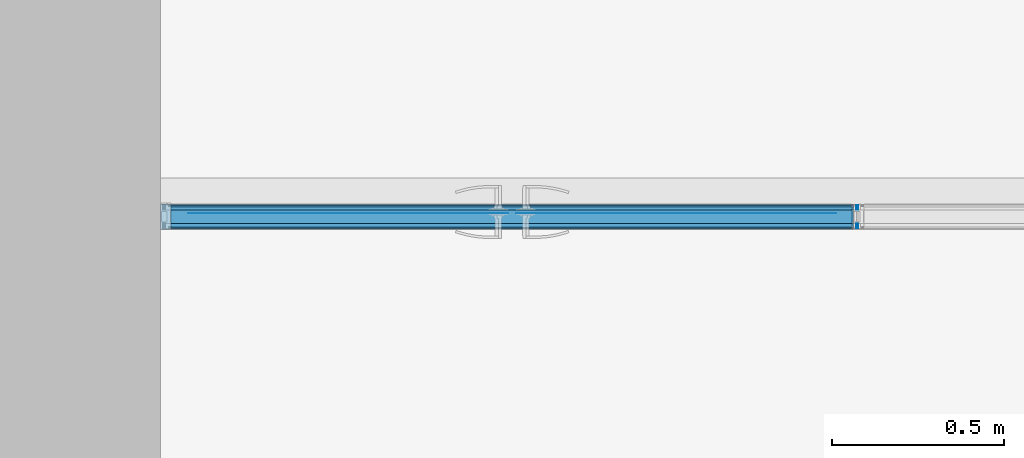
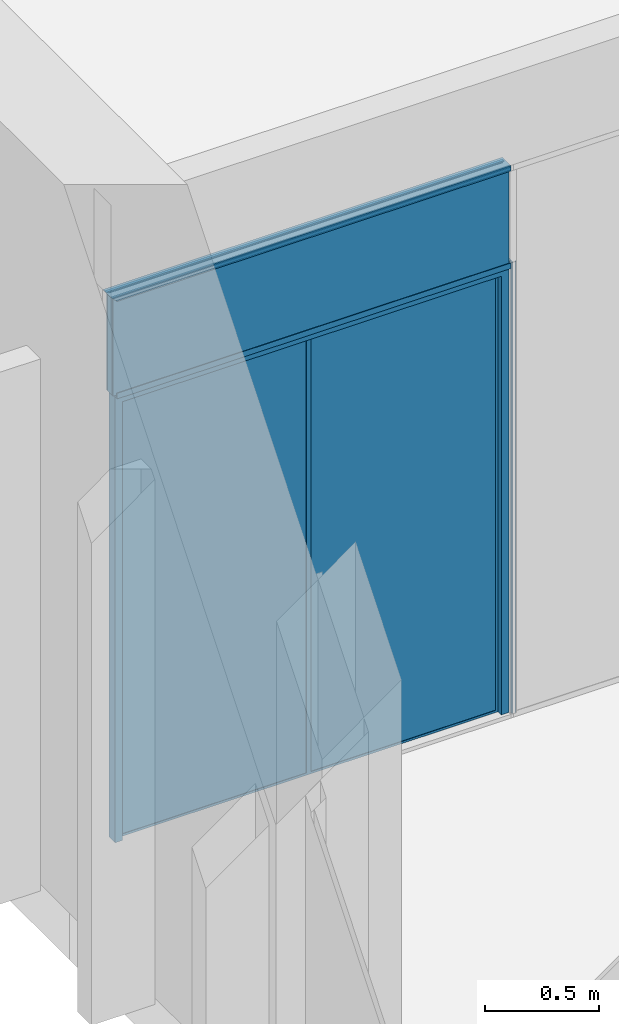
# One storey, part 59 of 89: 9 building element parts, 6 elements without a shape of their own.
"""IFC2X3 building model written with IfcOpenShell, lengths in millimetres."""

import ifcopenshell
import ifcopenshell.guid

model = None  # the IFC model being written
_history = None  # IfcOwnerHistory: only IFC2X3 demands one
_inside = {}  # id of a spatial element -> (the spatial element, [elements in it])
_under = {}  # id of a project, library or spatial element -> (it, [spatial elements below it])
_declared = {}  # id of a project -> (the project, [libraries it declares])
_typed = {}  # id of a type object -> (the type object, [elements of that type])
_made_of = {}  # id of a material, layer set ... -> (it, [elements and type objects made of it])


def new_model(schema):
    """Start an empty IFC model of exactly this schema.

    Asked for "IFC4X3", IfcOpenShell would pick the latest addendum, in which some entities
    have other attributes; the version numbers below select the first issue.
    IFC2X3 requires an IfcOwnerHistory on every rooted entity: one is made here for all.
    """
    global model, _history
    if schema == "IFC4X3":
        model = ifcopenshell.file(schema_version=(4, 3, 0, 0))
    else:
        model = ifcopenshell.file(schema=schema)
    _inside.clear()
    _under.clear()
    _declared.clear()
    _typed.clear()
    _made_of.clear()
    _history = None
    if model.schema == "IFC2X3":
        org = make("IfcOrganization", Name="unknown")
        user = make(
            "IfcPersonAndOrganization",
            ThePerson=make("IfcPerson", FamilyName="unknown"),
            TheOrganization=org,
        )
        app = make(
            "IfcApplication",
            ApplicationDeveloper=org,
            Version="unknown",
            ApplicationFullName="unknown",
            ApplicationIdentifier="unknown",
        )
        _history = make(
            "IfcOwnerHistory",
            OwningUser=user,
            OwningApplication=app,
            ChangeAction="ADDED",
            CreationDate=0,
        )
    return model


def make(cls, **values):
    """One entity of the class cls with the attributes given. An attribute that is None is left unset."""
    return model.create_entity(
        cls, **{name: value for name, value in values.items() if value is not None}
    )


def entity(cls, *values):
    """Any entity or typed value of the class cls, its attributes in the order of the schema. None: left unset."""
    e = model.create_entity(cls)
    for i, value in enumerate(values):
        if value is not None:
            e[i] = value
    return e


def rooted(cls, **values):
    """An entity with a GlobalId (a new one), such as an element, a storey or a relation."""
    return make(cls, GlobalId=ifcopenshell.guid.new(), OwnerHistory=_history, **values)


def si_unit(unit_type, name, prefix=None):
    """IfcSIUnit, for example si_unit("LENGTHUNIT", "METRE", prefix="MILLI")."""
    return make("IfcSIUnit", UnitType=unit_type, Prefix=prefix, Name=name)


def converted_unit(unit_type, name, factor, base, dimensions=None, offset=None):
    """IfcConversionBasedUnit, such as the inch: factor (a typed value) times the base unit."""
    return make(
        "IfcConversionBasedUnit"
        if offset is None
        else "IfcConversionBasedUnitWithOffset",
        ConversionOffset=offset,
        Dimensions=None
        if dimensions is None
        else entity("IfcDimensionalExponents", *dimensions),
        UnitType=unit_type,
        Name=name,
        ConversionFactor=make(
            "IfcMeasureWithUnit", ValueComponent=factor, UnitComponent=base
        ),
    )


def derived_unit(unit_type, elements):
    """IfcDerivedUnit: a product of units, each with its exponent."""
    return make(
        "IfcDerivedUnit",
        Elements=[
            make("IfcDerivedUnitElement", Unit=unit, Exponent=power)
            for unit, power in elements
        ],
        UnitType=unit_type,
    )


def money_unit(currency):
    """IfcMonetaryUnit."""
    return make("IfcMonetaryUnit", Currency=currency)


def assignment(units):
    """IfcUnitAssignment: the units of a project."""
    return None if units is None else make("IfcUnitAssignment", Units=units)


def point(xyz):
    """IfcCartesianPoint."""
    return None if xyz is None else make("IfcCartesianPoint", Coordinates=xyz)


def direction(xyz):
    """IfcDirection."""
    return None if xyz is None else make("IfcDirection", DirectionRatios=xyz)


def frame(location, z_axis=None, x_axis=None):
    """IfcAxis2Placement3D, a coordinate frame: its origin and axes. An axis left out is left unset."""
    return make(
        "IfcAxis2Placement3D",
        Location=point(location),
        Axis=direction(z_axis),
        RefDirection=direction(x_axis),
    )


def origin_with_axes():
    """The frame at (0, 0, 0) with the z axis (0, 0, 1) and the x axis (1, 0, 0) written out."""
    return frame((0.0, 0.0, 0.0), z_axis=(0.0, 0.0, 1.0), x_axis=(1.0, 0.0, 0.0))


def place(relative_to, where):
    """IfcLocalPlacement: puts the frame where relative to a parent placement (None: the world)."""
    return make(
        "IfcLocalPlacement", PlacementRelTo=relative_to, RelativePlacement=where
    )


def context(
    kind, dimensions, precision=None, world=None, true_north=None, identifier=None
):
    """IfcGeometricRepresentationContext, for example the 3D "Model" context."""
    return make(
        "IfcGeometricRepresentationContext",
        ContextIdentifier=identifier,
        ContextType=kind,
        CoordinateSpaceDimension=dimensions,
        Precision=precision,
        WorldCoordinateSystem=world,
        TrueNorth=true_north,
    )


def subcontext(parent, identifier, kind, view, scale=None):
    """IfcGeometricRepresentationSubContext, for example "Body" below "Model"."""
    return make(
        "IfcGeometricRepresentationSubContext",
        ContextIdentifier=identifier,
        ContextType=kind,
        ParentContext=parent,
        TargetScale=scale,
        TargetView=view,
    )


def project(units=None, contexts=None):
    """IfcProject with its units and contexts."""
    return rooted(
        "IfcProject",
        Name="project",
        RepresentationContexts=contexts,
        UnitsInContext=assignment(units),
    )


def spatial(cls, under=None, at=None, **own):
    """A site, building, storey or space (cls), placed at a placement, below another one or the project."""
    s = rooted(cls, ObjectPlacement=at, **own)
    if under is not None:
        _under.setdefault(under.id(), (under, []))[1].append(s)
    return s


def faces_of(points, faces, orient=None, outer=None):
    """IfcFace entities. A face is a list of loops; a loop is a list of indices into points, from 0.

    orient and outer hold one flag for each loop. By default every Orientation is true, the
    first loop of a face is its IfcFaceOuterBound and the others are IfcFaceBound.
    """
    made = []
    for i, loops in enumerate(faces):
        bounds = []
        for j, loop in enumerate(loops):
            is_outer = j == 0 if outer is None else outer[i][j]
            bounds.append(
                make(
                    "IfcFaceOuterBound" if is_outer else "IfcFaceBound",
                    Bound=make("IfcPolyLoop", Polygon=[points[k] for k in loop]),
                    Orientation=True if orient is None else orient[i][j],
                )
            )
        made.append(make("IfcFace", Bounds=bounds))
    return made


def open_shell(faces, orient=None, outer=None):
    """The faces of one IfcOpenShell. surface_model builds it on its shared points."""
    return ("IfcOpenShell", faces, orient, outer)


def faceted_brep(points, faces, orient=None, outer=None, voids=None):
    """IfcFacetedBrep: a solid bounded by flat faces; with voids (closed shells), ...WithVoids."""
    shared = [point(p) for p in points]
    hull = make("IfcClosedShell", CfsFaces=faces_of(shared, faces, orient, outer))
    if voids is None:
        return make("IfcFacetedBrep", Outer=hull)
    return make(
        "IfcFacetedBrepWithVoids",
        Outer=hull,
        Voids=[
            make(cls, CfsFaces=faces_of(shared, fs, o, b)) for cls, fs, o, b in voids
        ],
    )


def surface_model(cls, points, shells):
    """IfcFaceBasedSurfaceModel or IfcShellBasedSurfaceModel (cls): surfaces that need not close."""
    shared = [point(p) for p in points]
    made = [make(c, CfsFaces=faces_of(shared, fs, o, b)) for c, fs, o, b in shells]
    if cls == "IfcFaceBasedSurfaceModel":
        return make(cls, FbsmFaces=made)
    return make(cls, SbsmBoundary=made)


def shape(context_of_items, identifier, shape_type, items):
    """IfcShapeRepresentation: the items that make up one representation, for example the "Body"."""
    return make(
        "IfcShapeRepresentation",
        ContextOfItems=context_of_items,
        RepresentationIdentifier=identifier,
        RepresentationType=shape_type,
        Items=items,
    )


def material(Name=None, Category=None):
    """IfcMaterial."""
    return make("IfcMaterial", Name=Name, Category=Category)


def made_of(thing, what):
    """Note that an element or type object is made of a material, layer set ...; save() writes the relation."""
    if what is not None:
        _made_of.setdefault(what.id(), (what, []))[1].append(thing)
    return thing


def type_object(cls, material=None, **own):
    """A type object (cls), such as IfcWallType, which elements share."""
    return made_of(rooted(cls, **own), material)


def element(
    cls,
    number,
    at=None,
    inside=None,
    cuts=None,
    type_object=None,
    material=None,
    context=None,
    identifier="Body",
    shape_type=None,
    held_by="IfcProductDefinitionShape",
    body=None,
    shapes=None,
    **own,
):
    """One element of the class cls, such as IfcWall. Its Tag is "e" and its number.

    at: its placement. inside: the storey or other place that contains it. cuts: it is an
    opening in that element (IfcRelVoidsElement). A single representation is given by context,
    identifier, shape_type and body (its items); several are given by shapes. held_by: the class
    of the entity that holds the representations. save() writes the other relations.
    """
    e = rooted(cls, Tag="e%d" % number, ObjectPlacement=at, **own)
    if body is not None:
        shapes = [shape(context, identifier, shape_type, body)]
    if shapes is not None:
        e.Representation = make(held_by, Representations=shapes)
    if inside is not None:
        _inside.setdefault(inside.id(), (inside, []))[1].append(e)
    if cuts is not None:
        rooted(
            "IfcRelVoidsElement", RelatingBuildingElement=cuts, RelatedOpeningElement=e
        )
    if type_object is not None:
        _typed.setdefault(type_object.id(), (type_object, []))[1].append(e)
    return made_of(e, material)


def aggregate(whole, parts):
    """IfcRelAggregates: a whole, such as a stair, and the parts it consists of."""
    return rooted("IfcRelAggregates", RelatingObject=whole, RelatedObjects=parts)


def save(model, path):
    """Write the relations noted so far, then the file.

    IfcRelAggregates (storeys below a building ...), IfcRelContainedInSpatialStructure (elements
    in a storey), IfcRelDefinesByType, IfcRelAssociatesMaterial and IfcRelDeclares: one each for
    every whole, place, type object, material and project.
    """
    for whole, parts in _under.values():
        aggregate(whole, parts)
    for where, things in _inside.values():
        rooted(
            "IfcRelContainedInSpatialStructure",
            RelatedElements=things,
            RelatingStructure=where,
        )
    for kind, things in _typed.values():
        rooted("IfcRelDefinesByType", RelatedObjects=things, RelatingType=kind)
    for what, things in _made_of.values():
        rooted("IfcRelAssociatesMaterial", RelatedObjects=things, RelatingMaterial=what)
    for by, libraries in _declared.values():
        rooted("IfcRelDeclares", RelatingContext=by, RelatedDefinitions=libraries)
    model.write(path)


model = new_model("IFC2X3")

# Units and contexts
model_context = context("Model", 3, precision=0.01, world=origin_with_axes(), true_north=direction((0.0, 1.0)))
body_context = subcontext(model_context, "Body", "Model", "MODEL_VIEW")
ifc_project = project(units=[si_unit("LENGTHUNIT", "METRE", prefix="MILLI"), si_unit("AREAUNIT", "SQUARE_METRE"), si_unit("VOLUMEUNIT", "CUBIC_METRE"), converted_unit("PLANEANGLEUNIT", "DEGREE", entity("IfcPlaneAngleMeasure", 0.0174532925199), si_unit("PLANEANGLEUNIT", "RADIAN"), dimensions=[0, 0, 0, 0, 0, 0, 0]), si_unit("SOLIDANGLEUNIT", "STERADIAN"), money_unit("EUR"), converted_unit("TIMEUNIT", "Year", entity("IfcTimeMeasure", 31556926.0), si_unit("TIMEUNIT", "SECOND"), dimensions=[0, 0, 1, 0, 0, 0, 0]), si_unit("MASSUNIT", "GRAM", prefix="KILO"), si_unit("THERMODYNAMICTEMPERATUREUNIT", "DEGREE_CELSIUS"), si_unit("LUMINOUSINTENSITYUNIT", "LUMEN"), si_unit("ENERGYUNIT", "JOULE", prefix="MEGA"), derived_unit("THERMALCONDUCTANCEUNIT", [(si_unit("POWERUNIT", "WATT"), 1), (si_unit("LENGTHUNIT", "METRE"), -1), (si_unit("THERMODYNAMICTEMPERATUREUNIT", "KELVIN"), -1)]), derived_unit("SPECIFICHEATCAPACITYUNIT", [(si_unit("ENERGYUNIT", "JOULE"), 1), (si_unit("MASSUNIT", "GRAM", prefix="KILO"), -1), (si_unit("THERMODYNAMICTEMPERATUREUNIT", "KELVIN"), -1)]), derived_unit("MASSDENSITYUNIT", [(si_unit("MASSUNIT", "GRAM", prefix="KILO"), 1), (si_unit("VOLUMEUNIT", "CUBIC_METRE"), -1)])], contexts=[model_context])

# Site, building, storey
site_placement = place(None, origin_with_axes())
site = spatial("IfcSite", under=ifc_project, at=site_placement, Name="Puškini 31, Narva", CompositionType="ELEMENT")
building_placement = place(site_placement, origin_with_axes())
building = spatial("IfcBuilding", under=site, at=building_placement, Name="Narva Riigigümnaasium", CompositionType="ELEMENT")
storey_placement = place(building_placement, frame((0.0, 0.0, -3300.0), z_axis=(0.0, 0.0, 1.0), x_axis=(1.0, 0.0, 0.0)))
storey = spatial("IfcBuildingStorey", under=building, at=storey_placement, Name="1.korrus -3.3", CompositionType="ELEMENT", Elevation=-3300.0)

# Curtain wall, door, building element parts, plate, members
curtain_wall_type = type_object("IfcCurtainWallType", Name="Curtain Wall Type", PredefinedType="NOTDEFINED")
curtain_wall_placement = place(storey_placement, frame((40014.000008, 243997.000057, -9.155864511e-06), z_axis=(0.0, 0.0, 1.0), x_axis=(1.0, 0.0, 0.0)))
curtain_wall = element("IfcCurtainWall", 1, at=curtain_wall_placement, inside=storey, type_object=curtain_wall_type, Name="G-SKLF-09")
door_style = type_object("IfcDoorStyle", Name="1973 x 2365 x 20", ConstructionType="NOTDEFINED", OperationType="NOTDEFINED", ParameterTakesPrecedence=False, Sizeable=False)
door_placement = place(curtain_wall_placement, frame((-1595.00000779, 0.0, 1200.00000358), z_axis=(0.0, 0.0, 1.0), x_axis=(-1.0, 0.0, 0.0)))
door = element("IfcDoor", 2, at=door_placement, type_object=door_style, Name="G-SKLF-09-U1", ObjectType="DOOR")
ifc_material_1 = material(Name="Alumiiniumprofiil")
building_element_part_1_placement = place(door_placement, origin_with_axes())
building_element_part_1 = element("IfcBuildingElementPart", 3, at=building_element_part_1_placement, material=ifc_material_1, Name="Alumiiniumprofiil", context=body_context, shape_type="Brep", body=[
    faceted_brep([(-1009.00000602, -20.0, -1180.00000352), (-1009.00000602, -34.0, -1180.00000352), (-1009.00000602, -34.0, 1200.00000358), (-1009.00000602, -20.0, 1200.00000358), (-963.000006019, -20.0, -1180.00000352), (-963.000006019, -34.0, -1180.00000352), (-963.000006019, -34.0, 1154.00000358), (-963.000006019, -20.0, 1154.00000358)], [[[0, 1, 2, 3]], [[4, 5, 1, 0]], [[1, 5, 6, 2]], [[3, 2, 6, 7]], [[0, 3, 7, 4]], [[7, 6, 5, 4]]]),
    faceted_brep([(978.999999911, -20.0, 1200.00000358), (978.999999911, -34.0, 1200.00000358), (932.999999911, -34.0, 1154.00000358), (932.999999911, -20.0, 1154.00000358), (-1009.00000602, -20.0, 1200.00000358), (-1009.00000602, -34.0, 1200.00000358), (-963.000006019, -34.0, 1154.00000358), (-963.000006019, -20.0, 1154.00000358)], [[[0, 1, 2, 3]], [[4, 5, 1, 0]], [[1, 5, 6, 2]], [[3, 2, 6, 7]], [[0, 3, 7, 4]], [[7, 6, 5, 4]]]),
    faceted_brep([(978.999999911, -20.0, -1180.00000352), (978.999999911, -34.0, -1180.00000352), (932.999999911, -34.0, -1180.00000352), (932.999999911, -20.0, -1180.00000352), (978.999999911, -20.0, 1200.00000358), (978.999999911, -34.0, 1200.00000358), (932.999999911, -34.0, 1154.00000358), (932.999999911, -20.0, 1154.00000358)], [[[0, 1, 2, 3]], [[4, 5, 1, 0]], [[1, 5, 6, 2]], [[3, 2, 6, 7]], [[0, 3, 7, 4]], [[7, 6, 5, 4]]]),
    faceted_brep([(-1009.00000602, 20.0, -1180.00000352), (-1009.00000602, -20.0, -1180.00000352), (-1009.00000602, -20.0, 1200.00000358), (-1009.00000602, 20.0, 1200.00000358), (-971.000006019, 20.0, -1180.00000352), (-971.000006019, -20.0, -1180.00000352), (-971.000006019, -20.0, 1162.00000358), (-971.000006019, 20.0, 1162.00000358)], [[[0, 1, 2, 3]], [[4, 5, 1, 0]], [[1, 5, 6, 2]], [[3, 2, 6, 7]], [[0, 3, 7, 4]], [[7, 6, 5, 4]]]),
    faceted_brep([(978.999999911, 20.0, 1200.00000358), (978.999999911, -20.0, 1200.00000358), (940.999999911, -20.0, 1162.00000358), (940.999999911, 20.0, 1162.00000358), (-1009.00000602, 20.0, 1200.00000358), (-1009.00000602, -20.0, 1200.00000358), (-971.000006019, -20.0, 1162.00000358), (-971.000006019, 20.0, 1162.00000358)], [[[0, 1, 2, 3]], [[4, 5, 1, 0]], [[1, 5, 6, 2]], [[3, 2, 6, 7]], [[0, 3, 7, 4]], [[7, 6, 5, 4]]]),
    faceted_brep([(978.999999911, 20.0, -1180.00000352), (978.999999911, -20.0, -1180.00000352), (940.999999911, -20.0, -1180.00000352), (940.999999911, 20.0, -1180.00000352), (978.999999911, 20.0, 1200.00000358), (978.999999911, -20.0, 1200.00000358), (940.999999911, -20.0, 1162.00000358), (940.999999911, 20.0, 1162.00000358)], [[[0, 1, 2, 3]], [[4, 5, 1, 0]], [[1, 5, 6, 2]], [[3, 2, 6, 7]], [[0, 3, 7, 4]], [[7, 6, 5, 4]]]),
    faceted_brep([(-1009.00000602, 9.99999999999, -1180.00000352), (-1009.00000602, -9.99999999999, -1180.00000352), (-1009.00000602, -9.99999999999, 1200.00000358), (-1009.00000602, 9.99999999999, 1200.00000358), (-994.000005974, 9.99999999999, -1180.00000352), (-994.000005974, -9.99999999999, -1180.00000352), (-994.000005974, -9.99999999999, 1185.00000353), (-994.000005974, 9.99999999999, 1185.00000353)], [[[0, 1, 2, 3]], [[4, 5, 1, 0]], [[1, 5, 6, 2]], [[3, 2, 6, 7]], [[0, 3, 7, 4]], [[7, 6, 5, 4]]]),
    faceted_brep([(-1009.00000602, 9.99999999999, 1200.00000358), (-1009.00000602, -9.99999999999, 1200.00000358), (978.999999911, -9.99999999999, 1200.00000358), (978.999999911, 9.99999999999, 1200.00000358), (-994.000005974, 9.99999999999, 1185.00000353), (-994.000005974, -9.99999999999, 1185.00000353), (978.999999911, -9.99999999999, 1185.00000353), (978.999999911, 9.99999999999, 1185.00000353)], [[[0, 1, 2, 3]], [[4, 5, 1, 0]], [[1, 5, 6, 2]], [[3, 2, 6, 7]], [[0, 3, 7, 4]], [[7, 6, 5, 4]]]),
    faceted_brep([(928.999999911, -20.0, -1168.00000352), (928.999999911, -20.0, 1150.00000358), (928.999999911, -8.00000000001, 1150.00000358), (928.999999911, -8.00000000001, -1168.00000352), (940.999999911, -20.0, -1180.00000352), (940.999999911, -20.0, 1162.00000358), (940.999999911, -8.00000000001, 1162.00000358), (940.999999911, -8.00000000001, -1180.00000352)], [[[0, 1, 2, 3]], [[0, 4, 5, 1]], [[1, 5, 6, 2]], [[3, 2, 6, 7]], [[4, 0, 3, 7]], [[5, 4, 7, 6]]]),
    faceted_brep([(-15.0000030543, -20.0, -1180.00000352), (-15.0000030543, -20.0, 1162.00000358), (-15.0000030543, -8.00000000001, 1162.00000358), (-15.0000030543, -8.00000000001, -1180.00000352), (-3.00000305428, -20.0, -1168.00000352), (-3.00000305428, -20.0, 1150.00000358), (-3.00000305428, -8.00000000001, 1150.00000358), (-3.00000305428, -8.00000000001, -1168.00000352)], [[[0, 1, 2, 3]], [[0, 4, 5, 1]], [[1, 5, 6, 2]], [[3, 2, 6, 7]], [[4, 0, 3, 7]], [[5, 4, 7, 6]]]),
    faceted_brep([(-15.0000030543, -20.0, -1180.00000352), (-3.00000305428, -20.0, -1168.00000352), (-3.00000305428, -8.00000000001, -1168.00000352), (-15.0000030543, -8.00000000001, -1180.00000352), (940.999999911, -20.0, -1180.00000352), (928.999999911, -20.0, -1168.00000352), (928.999999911, -8.00000000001, -1168.00000352), (940.999999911, -8.00000000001, -1180.00000352)], [[[0, 1, 2, 3]], [[0, 4, 5, 1]], [[1, 5, 6, 2]], [[3, 2, 6, 7]], [[4, 0, 3, 7]], [[5, 4, 7, 6]]]),
    faceted_brep([(940.999999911, -20.0, 1162.00000358), (928.999999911, -20.0, 1150.00000358), (928.999999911, -8.00000000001, 1150.00000358), (940.999999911, -8.00000000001, 1162.00000358), (-15.0000030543, -20.0, 1162.00000358), (-3.00000305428, -20.0, 1150.00000358), (-3.00000305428, -8.00000000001, 1150.00000358), (-15.0000030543, -8.00000000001, 1162.00000358)], [[[0, 1, 2, 3]], [[0, 4, 5, 1]], [[1, 5, 6, 2]], [[3, 2, 6, 7]], [[4, 0, 3, 7]], [[5, 4, 7, 6]]]),
    faceted_brep([(-27.0000030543, -20.0, -1168.00000352), (-27.0000030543, -20.0, 1150.00000358), (-27.0000030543, -8.00000000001, 1150.00000358), (-27.0000030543, -8.00000000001, -1168.00000352), (-15.0000030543, -20.0, -1180.00000352), (-15.0000030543, -20.0, 1162.00000358), (-15.0000030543, -8.00000000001, 1162.00000358), (-15.0000030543, -8.00000000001, -1180.00000352)], [[[0, 1, 2, 3]], [[0, 4, 5, 1]], [[1, 5, 6, 2]], [[3, 2, 6, 7]], [[4, 0, 3, 7]], [[5, 4, 7, 6]]]),
    faceted_brep([(-971.000006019, -20.0, -1180.00000352), (-971.000006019, -20.0, 1162.00000358), (-971.000006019, -8.00000000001, 1162.00000358), (-971.000006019, -8.00000000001, -1180.00000352), (-959.000006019, -20.0, -1168.00000352), (-959.000006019, -20.0, 1150.00000358), (-959.000006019, -8.00000000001, 1150.00000358), (-959.000006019, -8.00000000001, -1168.00000352)], [[[0, 1, 2, 3]], [[0, 4, 5, 1]], [[1, 5, 6, 2]], [[3, 2, 6, 7]], [[4, 0, 3, 7]], [[5, 4, 7, 6]]]),
    faceted_brep([(-971.000006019, -20.0, -1180.00000352), (-959.000006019, -20.0, -1168.00000352), (-959.000006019, -8.00000000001, -1168.00000352), (-971.000006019, -8.00000000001, -1180.00000352), (-15.0000030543, -20.0, -1180.00000352), (-27.0000030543, -20.0, -1168.00000352), (-27.0000030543, -8.00000000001, -1168.00000352), (-15.0000030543, -8.00000000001, -1180.00000352)], [[[0, 1, 2, 3]], [[0, 4, 5, 1]], [[1, 5, 6, 2]], [[3, 2, 6, 7]], [[4, 0, 3, 7]], [[5, 4, 7, 6]]]),
    faceted_brep([(-15.0000030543, -20.0, 1162.00000358), (-27.0000030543, -20.0, 1150.00000358), (-27.0000030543, -8.00000000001, 1150.00000358), (-15.0000030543, -8.00000000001, 1162.00000358), (-971.000006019, -20.0, 1162.00000358), (-959.000006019, -20.0, 1150.00000358), (-959.000006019, -8.00000000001, 1150.00000358), (-971.000006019, -8.00000000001, 1162.00000358)], [[[0, 1, 2, 3]], [[0, 4, 5, 1]], [[1, 5, 6, 2]], [[3, 2, 6, 7]], [[4, 0, 3, 7]], [[5, 4, 7, 6]]]),
])
ifc_material_2 = material(Name="VKR-05_Klaas")
building_element_part_2_placement = place(door_placement, origin_with_axes())
building_element_part_2 = element("IfcBuildingElementPart", 4, at=building_element_part_2_placement, material=ifc_material_2, Name="VKR-05_Klaas", context=body_context, shape_type="SurfaceModel", body=[
    surface_model("IfcShellBasedSurfaceModel", [(928.999999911, -9.99999999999, -1168.00000352), (928.999999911, -9.99999999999, 1150.00000358), (-3.00000305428, -9.99999999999, 1150.00000358), (-3.00000305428, -9.99999999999, -1168.00000352)], [open_shell([[[0, 1, 2, 3]]])]),
    surface_model("IfcShellBasedSurfaceModel", [(-27.0000030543, -9.99999999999, -1168.00000352), (-27.0000030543, -9.99999999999, 1150.00000358), (-959.000006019, -9.99999999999, 1150.00000358), (-959.000006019, -9.99999999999, -1168.00000352)], [open_shell([[[0, 1, 2, 3]]])]),
])
aggregate(door, [building_element_part_1, building_element_part_2])
plate_type = type_object("IfcPlateType", Name="Siseklaasfassaad - Klaas 1999 x 520 x 10", PredefinedType="CURTAIN_PANEL")
plate_placement = place(curtain_wall_placement, frame((-1028.6666684, 0.0, 2053.33333937), z_axis=(0.0, 0.0, 1.0), x_axis=(-1.0, 0.0, 0.0)))
plate = element("IfcPlate", 5, at=plate_placement, type_object=plate_type, Name="G-SKLF-09-klaas", ObjectType="CURTAIN_PANEL")
building_element_part_3_placement = place(plate_placement, origin_with_axes())
building_element_part_3 = element("IfcBuildingElementPart", 6, at=building_element_part_3_placement, material=ifc_material_2, Name="VKR-05_Klaas", context=body_context, shape_type="Brep", body=[
    faceted_brep([(-438.666676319, 29.0, 881.666679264), (-438.666676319, 20.0, 881.666679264), (1560.3333596, 20.0, 881.666679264), (1560.3333596, 29.0, 881.666679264), (-438.666676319, 29.0, 376.666633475), (-438.666676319, 20.0, 376.666633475), (-455.666671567, 20.0, 376.666663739), (-455.666701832, 20.0, 361.666653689), (1560.3333596, 20.0, 361.666653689), (1560.3333596, 29.0, 361.666653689), (-455.666701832, 29.0, 361.666653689), (-455.666671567, 29.0, 376.666663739)], [[[0, 1, 2, 3]], [[4, 5, 1, 0]], [[1, 5, 6, 7, 8, 2]], [[3, 2, 8, 9]], [[0, 3, 9, 10, 11, 4]], [[11, 6, 5, 4]], [[10, 7, 6, 11]], [[9, 8, 7, 10]]]),
    faceted_brep([(-438.666676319, -20.0, 881.666679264), (-438.666676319, -29.0, 881.666679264), (1560.3333596, -29.0, 881.666679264), (1560.3333596, -20.0, 881.666679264), (-438.666676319, -20.0, 376.666633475), (-438.666676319, -29.0, 376.666633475), (-455.666671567, -29.0, 376.666663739), (-455.666701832, -29.0, 361.666653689), (1560.3333596, -29.0, 361.666653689), (1560.3333596, -20.0, 361.666653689), (-455.666701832, -20.0, 361.666653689), (-455.666671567, -20.0, 376.666663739)], [[[0, 1, 2, 3]], [[4, 5, 1, 0]], [[1, 5, 6, 7, 8, 2]], [[3, 2, 8, 9]], [[0, 3, 9, 10, 11, 4]], [[11, 6, 5, 4]], [[10, 7, 6, 11]], [[9, 8, 7, 10]]]),
])
ifc_material_3 = material(Name="VKR-06_Õhkvahe")
building_element_part_4_placement = place(plate_placement, origin_with_axes())
building_element_part_4 = element("IfcBuildingElementPart", 7, at=building_element_part_4_placement, material=ifc_material_3, Name="VKR-06_Õhkvahe", context=body_context, shape_type="Brep", body=[
    faceted_brep([(-438.666676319, 20.0, 881.666679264), (-438.666676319, -20.0, 881.666679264), (1560.3333596, -20.0, 881.666679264), (1560.3333596, 20.0, 881.666679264), (-438.666676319, 20.0, 376.666633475), (-438.666676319, -20.0, 376.666633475), (-455.666671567, -20.0, 376.666663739), (-455.666701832, -20.0, 361.666653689), (1560.3333596, -20.0, 361.666653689), (1560.3333596, 20.0, 361.666653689), (-455.666701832, 20.0, 361.666653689), (-455.666671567, 20.0, 376.666663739)], [[[0, 1, 2, 3]], [[4, 5, 1, 0]], [[1, 5, 6, 7, 8, 2]], [[3, 2, 8, 9]], [[0, 3, 9, 10, 11, 4]], [[11, 6, 5, 4]], [[10, 7, 6, 11]], [[9, 8, 7, 10]]]),
])
aggregate(plate, [building_element_part_3, building_element_part_4])
member_type = type_object("IfcMemberType", Name="30 x 37", PredefinedType="MULLION")
member_1_placement = place(curtain_wall_placement, frame((-586.000007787, 0.0, 0.0), z_axis=(0.0, 0.0, 1.0), x_axis=(-1.0, 0.0, 0.0)))
member_1 = element("IfcMember", 8, at=member_1_placement, type_object=member_type, Name="G-SKLF-09-raam", ObjectType="MULLION")
ifc_material_4 = material(Name="Klaasvill")
building_element_part_5_placement = place(member_1_placement, origin_with_axes())
building_element_part_5 = element("IfcBuildingElementPart", 9, at=building_element_part_5_placement, material=ifc_material_4, Name="Klaasvill", context=body_context, shape_type="Brep", body=[
    faceted_brep([(-7.49999990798, -20.000000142, 20.0), (-13.8499999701, -20.000000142, 20.0), (-13.8499999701, -20.000000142, 2430.00002646), (-7.49999990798, -20.000000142, 2430.00002646), (-7.49999990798, -34.0161444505, 20.0), (-13.8499999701, -34.0161444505, 20.0), (-13.8499999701, -34.0161444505, 2430.00002646), (-7.49999990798, -34.0161444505, 2430.00002646)], [[[0, 1, 2, 3]], [[1, 0, 4, 5]], [[1, 5, 6, 2]], [[2, 6, 7, 3]], [[4, 0, 3, 7]], [[5, 4, 7, 6]]]),
    faceted_brep([(-28.7655837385, -33.0385325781, 20.0), (-24.987414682, -34.0161444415, 20.0), (-24.987414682, -34.0161444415, 2430.00002646), (-28.7655837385, -33.0385325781, 2430.00002646), (-28.4955493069, -32.0307503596, 20.0), (-27.75780152, -31.2930025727, 20.0), (-26.7500193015, -31.0229681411, 20.0), (-25.742237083, -31.2930025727, 20.0), (-25.004489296, -32.0307503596, 20.0), (-24.7344548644, -33.0385325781, 20.0), (-24.7344548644, -33.0385325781, 2430.00002646), (-25.004489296, -32.0307503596, 2430.00002646), (-25.742237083, -31.2930025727, 2430.00002646), (-26.7500193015, -31.0229681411, 2430.00002646), (-27.75780152, -31.2930025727, 2430.00002646), (-28.4955493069, -32.0307503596, 2430.00002646)], [[[0, 1, 2, 3]], [[1, 0, 4, 5, 6, 7, 8, 9]], [[1, 9, 10, 2]], [[2, 10, 11, 12, 13, 14, 15, 3]], [[4, 0, 3, 15]], [[5, 4, 15, 14]], [[6, 5, 14, 13]], [[7, 6, 13, 12]], [[8, 7, 12, 11]], [[9, 8, 11, 10]]]),
    faceted_brep([(-13.8499999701, 34.0161445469, 20.0), (-13.8499999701, 19.9999997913, 20.0), (-13.8499999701, 19.9999997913, 2430.00002646), (-13.8499999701, 34.0161445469, 2430.00002646), (-7.49999990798, 34.0161445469, 20.0), (-7.49999990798, 19.9999997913, 20.0), (-7.49999990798, 19.9999997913, 2430.00002646), (-7.49999990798, 34.0161445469, 2430.00002646)], [[[0, 1, 2, 3]], [[1, 0, 4, 5]], [[1, 5, 6, 2]], [[2, 6, 7, 3]], [[4, 0, 3, 7]], [[5, 4, 7, 6]]]),
    faceted_brep([(-25.004489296, 32.0307503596, 20.0), (-24.987414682, 34.0161444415, 20.0), (-24.987414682, 34.0161444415, 2430.00002646), (-25.004489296, 32.0307503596, 2430.00002646), (-25.742237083, 31.2930025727, 20.0), (-26.7500193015, 31.0229681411, 20.0), (-27.75780152, 31.2930025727, 20.0), (-28.4955493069, 32.0307503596, 20.0), (-28.7655837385, 33.0385325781, 20.0), (-28.5126239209, 34.0161444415, 20.0), (-28.5126239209, 34.0161444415, 2430.00002646), (-28.7655837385, 33.0385325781, 2430.00002646), (-28.4955493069, 32.0307503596, 2430.00002646), (-27.75780152, 31.2930025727, 2430.00002646), (-26.7500193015, 31.0229681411, 2430.00002646), (-25.742237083, 31.2930025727, 2430.00002646)], [[[0, 1, 2, 3]], [[1, 0, 4, 5, 6, 7, 8, 9]], [[1, 9, 10, 2]], [[2, 10, 11, 12, 13, 14, 15, 3]], [[4, 0, 3, 15]], [[5, 4, 15, 14]], [[6, 5, 14, 13]], [[7, 6, 13, 12]], [[8, 7, 12, 11]], [[9, 8, 11, 10]]]),
])
aggregate(member_1, [building_element_part_5])
member_2_placement = place(curtain_wall_placement, frame((-2604.00000779, 0.0, 2400.00000716), z_axis=(1.0, 0.0, 0.0), x_axis=(0.0, 0.0, 1.0)))
member_2 = element("IfcMember", 10, at=member_2_placement, type_object=member_type, Name="G-SKLF-09-raam", ObjectType="MULLION")
building_element_part_6_placement = place(member_2_placement, origin_with_axes())
building_element_part_6 = element("IfcBuildingElementPart", 11, at=building_element_part_6_placement, material=ifc_material_4, Name="Klaasvill", context=body_context, shape_type="Brep", body=[
    faceted_brep([(13.8499999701, -20.000000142, 30.0), (7.49999990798, -20.000000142, 30.0), (7.49999990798, -20.000000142, 2018.0), (13.8499999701, -20.000000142, 2018.0), (13.8499999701, -34.0161444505, 30.0), (7.49999990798, -34.0161444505, 30.0), (7.49999990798, -34.0161444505, 2018.0), (13.8499999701, -34.0161444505, 2018.0)], [[[0, 1, 2, 3]], [[1, 0, 4, 5]], [[1, 5, 6, 2]], [[2, 6, 7, 3]], [[4, 0, 3, 7]], [[5, 4, 7, 6]]]),
    faceted_brep([(25.004489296, -32.0307503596, 30.0), (24.987414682, -34.0161444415, 30.0), (24.987414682, -34.0161444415, 2018.0), (25.004489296, -32.0307503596, 2018.0), (25.742237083, -31.2930025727, 30.0), (26.7500193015, -31.0229681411, 30.0), (27.75780152, -31.2930025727, 30.0), (28.4955493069, -32.0307503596, 30.0), (28.7655837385, -33.0385325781, 30.0), (28.5126239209, -34.0161444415, 30.0), (28.5126239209, -34.0161444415, 2018.0), (28.7655837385, -33.0385325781, 2018.0), (28.4955493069, -32.0307503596, 2018.0), (27.75780152, -31.2930025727, 2018.0), (26.7500193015, -31.0229681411, 2018.0), (25.742237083, -31.2930025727, 2018.0)], [[[0, 1, 2, 3]], [[1, 0, 4, 5, 6, 7, 8, 9]], [[1, 9, 10, 2]], [[2, 10, 11, 12, 13, 14, 15, 3]], [[4, 0, 3, 15]], [[5, 4, 15, 14]], [[6, 5, 14, 13]], [[7, 6, 13, 12]], [[8, 7, 12, 11]], [[9, 8, 11, 10]]]),
    faceted_brep([(7.49999990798, 34.0161445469, 30.0), (7.49999990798, 19.9999997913, 30.0), (7.49999990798, 19.9999997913, 2018.0), (7.49999990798, 34.0161445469, 2018.0), (13.8499999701, 34.0161445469, 30.0), (13.8499999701, 19.9999997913, 30.0), (13.8499999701, 19.9999997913, 2018.0), (13.8499999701, 34.0161445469, 2018.0)], [[[0, 1, 2, 3]], [[1, 0, 4, 5]], [[1, 5, 6, 2]], [[2, 6, 7, 3]], [[4, 0, 3, 7]], [[5, 4, 7, 6]]]),
    faceted_brep([(24.987414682, 34.0161444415, 30.0), (25.004489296, 32.0307503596, 30.0), (25.004489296, 32.0307503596, 2018.0), (24.987414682, 34.0161444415, 2018.0), (28.5126239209, 34.0161444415, 30.0), (28.7655837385, 33.0385325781, 30.0), (28.4955493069, 32.0307503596, 30.0), (27.75780152, 31.2930025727, 30.0), (26.7500193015, 31.0229681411, 30.0), (25.742237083, 31.2930025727, 30.0), (25.742237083, 31.2930025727, 2018.0), (26.7500193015, 31.0229681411, 2018.0), (27.75780152, 31.2930025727, 2018.0), (28.4955493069, 32.0307503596, 2018.0), (28.7655837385, 33.0385325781, 2018.0), (28.5126239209, 34.0161444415, 2018.0)], [[[0, 1, 2, 3]], [[1, 0, 4, 5, 6, 7, 8, 9]], [[1, 9, 10, 2]], [[2, 10, 11, 12, 13, 14, 15, 3]], [[4, 0, 3, 15]], [[5, 4, 15, 14]], [[6, 5, 14, 13]], [[7, 6, 13, 12]], [[8, 7, 12, 11]], [[9, 8, 11, 10]]]),
])
ifc_material_5 = material(Name="Teras RAL7012")
building_element_part_7_placement = place(member_2_placement, origin_with_axes())
building_element_part_7 = element("IfcBuildingElementPart", 12, at=building_element_part_7_placement, material=ifc_material_5, Name="Teras RAL7012", context=body_context, shape_type="Brep", body=[
    faceted_brep([(29.5999996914, 17.0000000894, 30.0), (0.0, 17.0000000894, 30.0), (0.0, 17.0000000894, 2018.0), (29.5999996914, 17.0000000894, 2018.0), (29.5999996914, -17.0000000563, 30.0), (0.0, -17.0000000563, 30.0), (1.9999999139, -15.0000001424, 30.0), (18.7999996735, -15.0000001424, 30.0), (18.7999996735, 15.0000001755, 30.0), (1.9999999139, 15.0000001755, 30.0), (0.0, -17.0000000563, 2018.0), (29.5999996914, -17.0000000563, 2018.0), (1.9999999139, -15.0000001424, 2018.0), (1.9999999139, 15.0000001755, 2018.0), (18.7999996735, 15.0000001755, 2018.0), (18.7999996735, -15.0000001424, 2018.0)], [[[0, 1, 2, 3]], [[1, 0, 4, 5], [6, 7, 8, 9]], [[1, 5, 10, 2]], [[2, 10, 11, 3], [12, 13, 14, 15]], [[4, 0, 3, 11]], [[5, 4, 11, 10]], [[7, 6, 12, 15]], [[8, 7, 15, 14]], [[9, 8, 14, 13]], [[6, 9, 13, 12]]]),
    faceted_brep([(29.5999996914, -17.0000000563, 30.0), (0.0, -17.0, 30.0), (0.0, -17.0, 2018.0), (29.5999996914, -17.0000000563, 2018.0), (30.0000193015, -17.0, 30.0), (30.0000193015, -20.0, 30.0), (13.8499999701, -20.000000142, 30.0), (7.49999999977, -20.0, 30.0), (7.49999999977, -34.0161444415, 30.0), (13.8499999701, -34.0161444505, 30.0), (24.987414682, -34.0161444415, 30.0), (28.5126239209, -34.0161444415, 30.0), (30.0000193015, -34.0161444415, 30.0), (30.0000193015, -37.0, 30.0), (0.0, -37.0, 30.0), (0.0, -37.0, 2018.0), (30.0000193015, -37.0, 2018.0), (30.0000193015, -34.0161444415, 2018.0), (28.5126239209, -34.0161444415, 2018.0), (24.987414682, -34.0161444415, 2018.0), (13.8499999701, -34.0161444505, 2018.0), (7.49999999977, -34.0161444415, 2018.0), (7.49999999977, -20.0, 2018.0), (13.8499999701, -20.000000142, 2018.0), (30.0000193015, -20.0, 2018.0), (30.0000193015, -17.0, 2018.0)], [[[0, 1, 2, 3]], [[1, 0, 4, 5, 6, 7, 8, 9, 10, 11, 12, 13, 14]], [[1, 14, 15, 2]], [[2, 15, 16, 17, 18, 19, 20, 21, 22, 23, 24, 25, 3]], [[4, 0, 3, 25]], [[5, 4, 25, 24]], [[6, 5, 24, 23]], [[7, 6, 23, 22]], [[8, 7, 22, 21]], [[9, 8, 21, 20]], [[10, 9, 20, 19]], [[11, 10, 19, 18]], [[12, 11, 18, 17]], [[13, 12, 17, 16]], [[14, 13, 16, 15]]]),
    faceted_brep([(0.0, 37.0, 30.0), (0.0, 17.0, 30.0), (0.0, 17.0, 2018.0), (0.0, 37.0, 2018.0), (30.0000193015, 37.0, 30.0), (30.0000193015, 34.0161444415, 30.0), (28.5126239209, 34.0161444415, 30.0), (24.987414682, 34.0161444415, 30.0), (13.8499999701, 34.0161445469, 30.0), (7.49999999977, 34.0161444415, 30.0), (7.49999999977, 20.0, 30.0), (13.8499999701, 19.9999997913, 30.0), (30.0000193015, 20.0, 30.0), (30.0000193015, 17.0, 30.0), (29.5999996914, 17.0000000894, 30.0), (29.5999996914, 17.0000000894, 2018.0), (30.0000193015, 17.0, 2018.0), (30.0000193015, 20.0, 2018.0), (13.8499999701, 19.9999997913, 2018.0), (7.49999999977, 20.0, 2018.0), (7.49999999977, 34.0161444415, 2018.0), (13.8499999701, 34.0161445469, 2018.0), (24.987414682, 34.0161444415, 2018.0), (28.5126239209, 34.0161444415, 2018.0), (30.0000193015, 34.0161444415, 2018.0), (30.0000193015, 37.0, 2018.0)], [[[0, 1, 2, 3]], [[1, 0, 4, 5, 6, 7, 8, 9, 10, 11, 12, 13, 14]], [[1, 14, 15, 2]], [[2, 15, 16, 17, 18, 19, 20, 21, 22, 23, 24, 25, 3]], [[4, 0, 3, 25]], [[5, 4, 25, 24]], [[6, 5, 24, 23]], [[7, 6, 23, 22]], [[8, 7, 22, 21]], [[9, 8, 21, 20]], [[10, 9, 20, 19]], [[11, 10, 19, 18]], [[12, 11, 18, 17]], [[13, 12, 17, 16]], [[14, 13, 16, 15]]]),
])
aggregate(member_2, [building_element_part_6, building_element_part_7])
member_3_placement = place(curtain_wall_placement, frame((-2604.00000779, 0.0, 2950.00000716), z_axis=(1.0, 0.0, 0.0), x_axis=(0.0, 0.0, 1.0)))
member_3 = element("IfcMember", 13, at=member_3_placement, type_object=member_type, Name="G-SKLF-09-raam", ObjectType="MULLION")
aggregate(curtain_wall, [door, member_1, member_2, member_3, plate])
building_element_part_8_placement = place(member_3_placement, origin_with_axes())
building_element_part_8 = element("IfcBuildingElementPart", 14, at=building_element_part_8_placement, material=ifc_material_4, Name="Klaasvill", context=body_context, shape_type="Brep", body=[
    faceted_brep([(-13.8499999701, -20.000000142, 13.8499999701), (-13.8499999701, -20.000000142, 2018.0), (-7.49999990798, -20.000000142, 2018.0), (-7.49999990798, -20.000000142, 7.49999990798), (-13.8499999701, -34.0161444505, 13.8499999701), (-13.8499999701, -34.0161444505, 2018.0), (-7.49999990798, -34.0161444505, 2018.0), (-7.49999990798, -34.0161444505, 7.49999990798)], [[[0, 1, 2, 3]], [[4, 5, 1, 0]], [[2, 1, 5, 6]], [[3, 2, 6, 7]], [[3, 7, 4, 0]], [[7, 6, 5, 4]]]),
    faceted_brep([(-25.004489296, -32.0307503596, 25.004489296), (-25.004489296, -32.0307503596, 2018.0), (-24.987414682, -34.0161444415, 2018.0), (-24.987414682, -34.0161444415, 24.987414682), (-25.742237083, -31.2930025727, 25.742237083), (-25.742237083, -31.2930025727, 2018.0), (-26.7500193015, -31.0229681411, 2018.0), (-27.75780152, -31.2930025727, 2018.0), (-28.4955493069, -32.0307503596, 2018.0), (-28.7655837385, -33.0385325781, 2018.0), (-28.5126239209, -34.0161444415, 2018.0), (-28.5126239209, -34.0161444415, 28.5126239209), (-28.7655837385, -33.0385325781, 28.7655837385), (-28.4955493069, -32.0307503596, 28.4955493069), (-27.75780152, -31.2930025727, 27.75780152), (-26.7500193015, -31.0229681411, 26.7500193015)], [[[0, 1, 2, 3]], [[4, 5, 1, 0]], [[2, 1, 5, 6, 7, 8, 9, 10]], [[3, 2, 10, 11]], [[3, 11, 12, 13, 14, 15, 4, 0]], [[15, 6, 5, 4]], [[14, 7, 6, 15]], [[13, 8, 7, 14]], [[12, 9, 8, 13]], [[11, 10, 9, 12]]]),
    faceted_brep([(-7.49999990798, 34.0161445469, 7.49999990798), (-7.49999990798, 34.0161445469, 2018.0), (-7.49999990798, 19.9999997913, 2018.0), (-7.49999990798, 19.9999997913, 7.49999990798), (-13.8499999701, 34.0161445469, 13.8499999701), (-13.8499999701, 34.0161445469, 2018.0), (-13.8499999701, 19.9999997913, 2018.0), (-13.8499999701, 19.9999997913, 13.8499999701)], [[[0, 1, 2, 3]], [[4, 5, 1, 0]], [[2, 1, 5, 6]], [[3, 2, 6, 7]], [[3, 7, 4, 0]], [[7, 6, 5, 4]]]),
    faceted_brep([(-24.987414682, 34.0161444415, 24.987414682), (-24.987414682, 34.0161444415, 2018.0), (-25.004489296, 32.0307503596, 2018.0), (-25.004489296, 32.0307503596, 25.004489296), (-28.5126239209, 34.0161444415, 28.5126239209), (-28.5126239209, 34.0161444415, 2018.0), (-28.7655837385, 33.0385325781, 2018.0), (-28.4955493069, 32.0307503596, 2018.0), (-27.75780152, 31.2930025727, 2018.0), (-26.7500193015, 31.0229681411, 2018.0), (-25.742237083, 31.2930025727, 2018.0), (-25.742237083, 31.2930025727, 25.742237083), (-26.7500193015, 31.0229681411, 26.7500193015), (-27.75780152, 31.2930025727, 27.75780152), (-28.4955493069, 32.0307503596, 28.4955493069), (-28.7655837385, 33.0385325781, 28.7655837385)], [[[0, 1, 2, 3]], [[4, 5, 1, 0]], [[2, 1, 5, 6, 7, 8, 9, 10]], [[3, 2, 10, 11]], [[3, 11, 12, 13, 14, 15, 4, 0]], [[15, 6, 5, 4]], [[14, 7, 6, 15]], [[13, 8, 7, 14]], [[12, 9, 8, 13]], [[11, 10, 9, 12]]]),
])
building_element_part_9_placement = place(member_3_placement, origin_with_axes())
building_element_part_9 = element("IfcBuildingElementPart", 15, at=building_element_part_9_placement, material=ifc_material_5, Name="Teras RAL7012", context=body_context, shape_type="Brep", body=[
    faceted_brep([(-29.5999996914, 17.0000000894, 29.5999996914), (-29.5999996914, 17.0000000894, 2018.0), (0.0, 17.0000000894, 2018.0), (0.0, 17.0000000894, 0.0), (-29.5999996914, -17.0000000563, 29.5999996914), (-29.5999996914, -17.0000000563, 2018.0), (0.0, -17.0000000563, 2018.0), (-1.9999999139, -15.0000001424, 2018.0), (-18.7999996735, -15.0000001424, 2018.0), (-18.7999996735, 15.0000001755, 2018.0), (-1.9999999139, 15.0000001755, 2018.0), (0.0, -17.0000000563, 0.0), (-1.9999999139, -15.0000001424, 1.99999991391), (-1.9999999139, 15.0000001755, 1.99999991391), (-18.7999996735, 15.0000001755, 18.7999996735), (-18.7999996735, -15.0000001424, 18.7999996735)], [[[0, 1, 2, 3]], [[4, 5, 1, 0]], [[2, 1, 5, 6], [7, 8, 9, 10]], [[3, 2, 6, 11]], [[3, 11, 4, 0], [12, 13, 14, 15]], [[11, 6, 5, 4]], [[15, 8, 7, 12]], [[14, 9, 8, 15]], [[13, 10, 9, 14]], [[12, 7, 10, 13]]]),
    faceted_brep([(-29.5999996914, -17.0000000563, 29.5999996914), (-29.5999996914, -17.0000000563, 2018.0), (0.0, -17.0, 2018.0), (0.0, -17.0, 0.0), (-30.0000193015, -17.0, 30.0000193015), (-30.0000193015, -17.0, 2018.0), (-30.0000193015, -20.0, 2018.0), (-13.8499999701, -20.000000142, 2018.0), (-7.49999999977, -20.0, 2018.0), (-7.49999999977, -34.0161444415, 2018.0), (-13.8499999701, -34.0161444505, 2018.0), (-24.987414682, -34.0161444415, 2018.0), (-28.5126239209, -34.0161444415, 2018.0), (-30.0000193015, -34.0161444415, 2018.0), (-30.0000193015, -37.0, 2018.0), (0.0, -37.0, 2018.0), (0.0, -37.0, 0.0), (-30.0000193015, -37.0, 30.0000193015), (-30.0000193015, -34.0161444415, 30.0000193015), (-28.5126239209, -34.0161444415, 28.5126239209), (-24.987414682, -34.0161444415, 24.987414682), (-13.8499999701, -34.0161444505, 13.8499999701), (-7.49999999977, -34.0161444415, 7.49999999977), (-7.49999999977, -20.0, 7.49999999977), (-13.8499999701, -20.000000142, 13.8499999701), (-30.0000193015, -20.0, 30.0000193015)], [[[0, 1, 2, 3]], [[4, 5, 1, 0]], [[2, 1, 5, 6, 7, 8, 9, 10, 11, 12, 13, 14, 15]], [[3, 2, 15, 16]], [[3, 16, 17, 18, 19, 20, 21, 22, 23, 24, 25, 4, 0]], [[25, 6, 5, 4]], [[24, 7, 6, 25]], [[23, 8, 7, 24]], [[22, 9, 8, 23]], [[21, 10, 9, 22]], [[20, 11, 10, 21]], [[19, 12, 11, 20]], [[18, 13, 12, 19]], [[17, 14, 13, 18]], [[16, 15, 14, 17]]]),
    faceted_brep([(0.0, 37.0, 0.0), (0.0, 37.0, 2018.0), (0.0, 17.0, 2018.0), (0.0, 17.0, 0.0), (-30.0000193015, 37.0, 30.0000193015), (-30.0000193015, 37.0, 2018.0), (-30.0000193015, 34.0161444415, 2018.0), (-28.5126239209, 34.0161444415, 2018.0), (-24.987414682, 34.0161444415, 2018.0), (-13.8499999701, 34.0161445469, 2018.0), (-7.49999999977, 34.0161444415, 2018.0), (-7.49999999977, 20.0, 2018.0), (-13.8499999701, 19.9999997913, 2018.0), (-30.0000193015, 20.0, 2018.0), (-30.0000193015, 17.0, 2018.0), (-29.5999996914, 17.0000000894, 2018.0), (-29.5999996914, 17.0000000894, 29.5999996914), (-30.0000193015, 17.0, 30.0000193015), (-30.0000193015, 20.0, 30.0000193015), (-13.8499999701, 19.9999997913, 13.8499999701), (-7.49999999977, 20.0, 7.49999999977), (-7.49999999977, 34.0161444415, 7.49999999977), (-13.8499999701, 34.0161445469, 13.8499999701), (-24.987414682, 34.0161444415, 24.987414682), (-28.5126239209, 34.0161444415, 28.5126239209), (-30.0000193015, 34.0161444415, 30.0000193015)], [[[0, 1, 2, 3]], [[4, 5, 1, 0]], [[2, 1, 5, 6, 7, 8, 9, 10, 11, 12, 13, 14, 15]], [[3, 2, 15, 16]], [[3, 16, 17, 18, 19, 20, 21, 22, 23, 24, 25, 4, 0]], [[25, 6, 5, 4]], [[24, 7, 6, 25]], [[23, 8, 7, 24]], [[22, 9, 8, 23]], [[21, 10, 9, 22]], [[20, 11, 10, 21]], [[19, 12, 11, 20]], [[18, 13, 12, 19]], [[17, 14, 13, 18]], [[16, 15, 14, 17]]]),
])
aggregate(member_3, [building_element_part_8, building_element_part_9])

save(model, "model.ifc")
